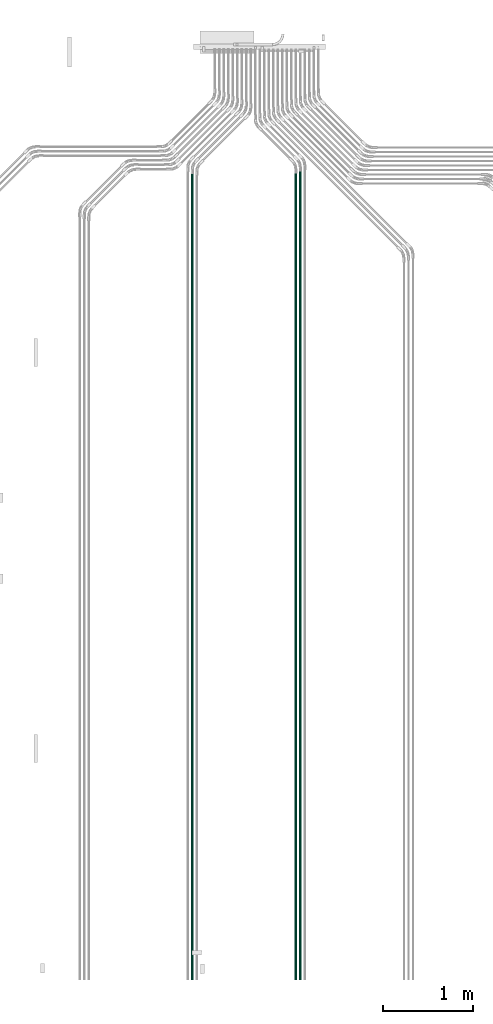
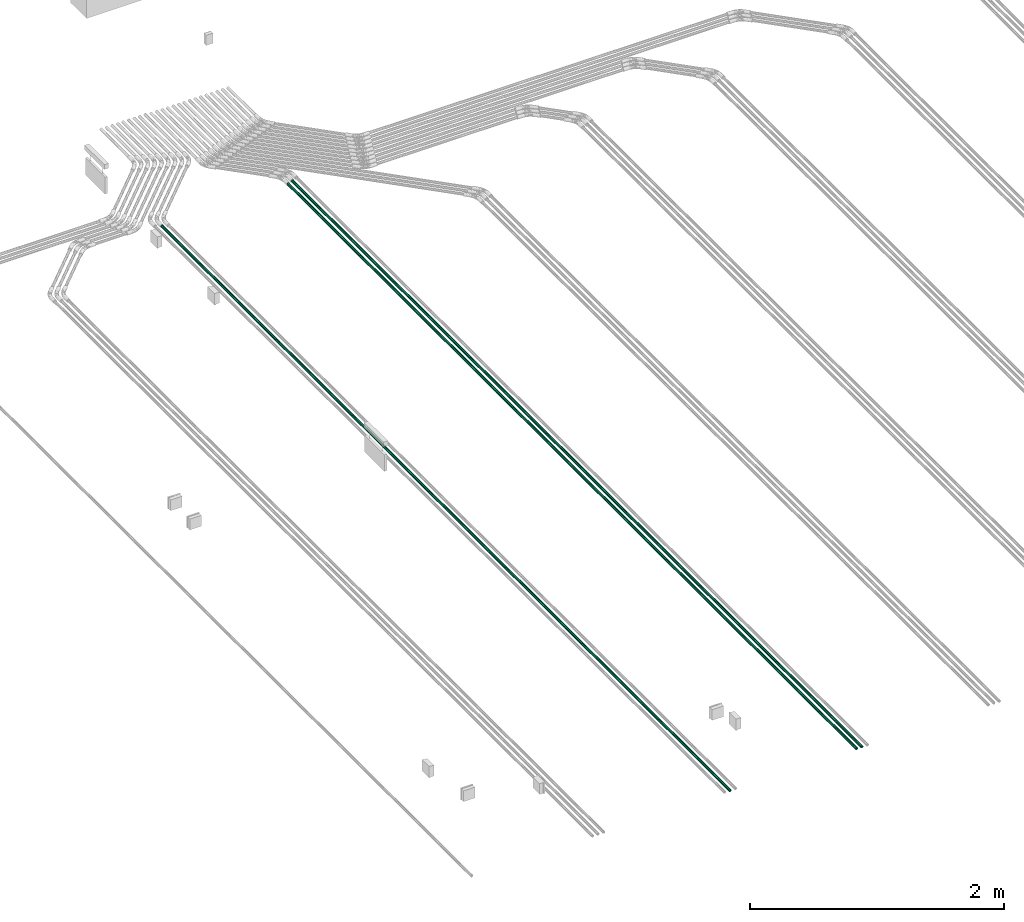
# One storey, part 33 of 51: 3 flow segments.
"""IFC2X3 building model written with IfcOpenShell, lengths in millimetres."""

from ifc_helpers import new_model, entity, si_unit, converted_unit, derived_unit, direction, frame, place, context, subcontext, project, spatial, faceted_brep, type_object, element, save


model = new_model("IFC2X3")

# Units and contexts
model_context = context("Model", 3, precision=0.01, world=frame((0.0, 4.29681676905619e-09, 0.0)), true_north=direction((4.01073788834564e-13, 1.0)))
plan_context = context("Plan", 3, precision=0.01, world=frame((0.0, 4.29681676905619e-09, 0.0)), true_north=direction((4.01073788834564e-13, 1.0)))
body_context = subcontext(model_context, "Body", "Model", "MODEL_VIEW")
ifc_project = project(units=[converted_unit("PLANEANGLEUNIT", "DEGREE", entity("IfcPositiveLengthMeasure", 0.0174532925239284), si_unit("PLANEANGLEUNIT", "RADIAN"), dimensions=[0, 0, 0, 0, 0, 0, 0]), si_unit("AREAUNIT", "SQUARE_METRE"), si_unit("LENGTHUNIT", "METRE", prefix="MILLI"), si_unit("MASSUNIT", "GRAM", prefix="KILO"), si_unit("POWERUNIT", "WATT"), si_unit("PRESSUREUNIT", "PASCAL"), si_unit("FORCEUNIT", "NEWTON", prefix="KILO"), si_unit("ELECTRICVOLTAGEUNIT", "VOLT"), si_unit("ELECTRICCURRENTUNIT", "AMPERE"), si_unit("THERMODYNAMICTEMPERATUREUNIT", "DEGREE_CELSIUS"), si_unit("TIMEUNIT", "SECOND"), si_unit("VOLUMEUNIT", "CUBIC_METRE"), derived_unit("LINEARVELOCITYUNIT", [(si_unit("LENGTHUNIT", "METRE"), 1), (si_unit("TIMEUNIT", "SECOND"), -1)]), derived_unit("VOLUMETRICFLOWRATEUNIT", [(si_unit("VOLUMEUNIT", "CUBIC_METRE"), 1), (si_unit("TIMEUNIT", "SECOND"), -1)]), derived_unit("THERMALTRANSMITTANCEUNIT", [(si_unit("POWERUNIT", "WATT"), 1), (si_unit("THERMODYNAMICTEMPERATUREUNIT", "KELVIN"), -1), (si_unit("AREAUNIT", "SQUARE_METRE"), -1)]), derived_unit("SOUNDPRESSUREUNIT", [(si_unit("PRESSUREUNIT", "PASCAL"), 1)])], contexts=[model_context, plan_context])

# Site, building, storey
site_placement = place(None, frame((0.0, -4.29681676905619e-09, 0.0), z_axis=(0.0, 0.0, 1.0), x_axis=(1.0, 0.0, 0.0)))
site = spatial("IfcSite", under=ifc_project, at=site_placement, Name="ENGM", CompositionType="ELEMENT")
building_placement = place(site_placement, frame((0.0, 4.29681676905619e-09, 0.0), z_axis=(0.0, 0.0, 1.0), x_axis=(1.0, 0.0, 0.0)))
building = spatial("IfcBuilding", under=site, at=building_placement, Name="TI", CompositionType="ELEMENT")
storey_placement = place(building_placement, frame((0.0, 0.0, 210900.0), z_axis=(0.0, 0.0, 1.0), x_axis=(1.0, 0.0, 0.0)))
storey = spatial("IfcBuildingStorey", under=building, at=storey_placement, Name="Nivå F", CompositionType="ELEMENT", Elevation=210900.0)

# Flow segments
cable_carrier_segment_type = type_object("IfcCableCarrierSegmentType", Name="Trekkerør, korrugert", PredefinedType="CONDUITSEGMENT")
flow_segment_1_placement = place(storey_placement, frame((600375.0, 662927.49253, -56.7999999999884), z_axis=(0.0, 0.0, 1.0), x_axis=(0.0, 1.0, 0.0)))
element("IfcFlowSegment", 1, at=flow_segment_1_placement, inside=storey, type_object=cable_carrier_segment_type, Name="Trekkerør, korrugert", context=body_context, shape_type="Brep", body=[
    faceted_brep([(26072.507469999, 10.3404814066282, -1.82330586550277), (26072.507469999, 10.5, 0.0), (35025.4, 10.5, 0.0), (35025.4, 10.3404814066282, -1.82330586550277), (26072.507469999, 9.86677251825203, -3.59121150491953), (35025.4, 9.86677251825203, -3.59121150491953), (26072.507469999, 9.0932667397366, -5.25), (35025.4, 9.0932667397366, -5.25), (26072.507469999, 8.04346665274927, -6.74926990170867), (35025.4, 8.04346665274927, -6.74926990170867), (26072.507469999, 6.74926990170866, -8.04346665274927), (35025.4, 6.74926990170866, -8.04346665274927), (26072.507469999, 5.25, -9.09326673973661), (35025.4, 5.25, -9.09326673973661), (26072.507469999, 3.59121150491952, -9.86677251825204), (35025.4, 3.59121150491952, -9.86677251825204), (26072.507469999, 1.82330586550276, -10.3404814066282), (35025.4, 1.82330586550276, -10.3404814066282), (26072.507469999, -1.92881870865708e-15, -10.5), (35025.4, -1.92881870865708e-15, -10.5), (26072.507469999, -1.82330586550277, -10.3404814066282), (35025.4, -1.82330586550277, -10.3404814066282), (26072.507469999, -3.59121150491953, -9.86677251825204), (35025.4, -3.59121150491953, -9.86677251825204), (26072.507469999, -5.25, -9.0932667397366), (35025.4, -5.25, -9.0932667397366), (26072.507469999, -6.74926990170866, -8.04346665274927), (35025.4, -6.74926990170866, -8.04346665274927), (26072.507469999, -8.04346665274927, -6.74926990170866), (35025.4, -8.04346665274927, -6.74926990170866), (26072.507469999, -9.09326673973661, -5.25), (35025.4, -9.09326673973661, -5.25), (26072.507469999, -9.86677251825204, -3.59121150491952), (35025.4, -9.86677251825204, -3.59121150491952), (26072.507469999, -10.3404814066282, -1.82330586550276), (35025.4, -10.3404814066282, -1.82330586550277), (26072.507469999, -10.5, 1.28587913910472e-15), (35025.4, -10.5, 1.28587913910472e-15), (26072.507469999, -10.3404814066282, 1.82330586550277), (35025.4, -10.3404814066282, 1.82330586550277), (26072.507469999, -9.86677251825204, 3.59121150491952), (35025.4, -9.86677251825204, 3.59121150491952), (26072.507469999, -9.09326673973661, 5.25), (35025.4, -9.09326673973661, 5.25), (26072.507469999, -8.04346665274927, 6.74926990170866), (35025.4, -8.04346665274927, 6.74926990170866), (26072.507469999, -6.74926990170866, 8.04346665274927), (35025.4, -6.74926990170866, 8.04346665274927), (26072.507469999, -5.25, 9.09326673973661), (35025.4, -5.25, 9.09326673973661), (26072.507469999, -3.59121150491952, 9.86677251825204), (35025.4, -3.59121150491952, 9.86677251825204), (26072.507469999, -1.82330586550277, 10.3404814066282), (35025.4, -1.82330586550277, 10.3404814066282), (26072.507469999, 6.4293956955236e-16, 10.5), (35025.4, 6.4293956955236e-16, 10.5), (26072.507469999, 1.82330586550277, 10.3404814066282), (35025.4, 1.82330586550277, 10.3404814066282), (26072.507469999, 3.59121150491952, 9.86677251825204), (35025.4, 3.59121150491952, 9.86677251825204), (26072.507469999, 5.25, 9.09326673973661), (35025.4, 5.25, 9.09326673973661), (26072.507469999, 6.74926990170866, 8.04346665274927), (35025.4, 6.74926990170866, 8.04346665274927), (26072.507469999, 8.04346665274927, 6.74926990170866), (35025.4, 8.04346665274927, 6.74926990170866), (26072.507469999, 9.09326673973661, 5.25), (35025.4, 9.09326673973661, 5.25), (26072.507469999, 9.86677251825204, 3.59121150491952), (35025.4, 9.86677251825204, 3.59121150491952), (26072.507469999, 10.3404814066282, 1.82330586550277), (35025.4, 10.3404814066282, 1.82330586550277), (26072.507469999, 12.5, 0.0), (26072.507469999, 12.3100969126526, -2.17060222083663), (35025.4, 12.3100969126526, -2.17060222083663), (35025.4, 12.5, 0.0), (26072.507469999, 12.3100969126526, 2.17060222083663), (35025.4, 12.3100969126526, 2.17060222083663), (26072.507469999, 11.7461577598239, 4.27525179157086), (35025.4, 11.7461577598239, 4.27525179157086), (26072.507469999, 10.8253175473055, 6.25), (35025.4, 10.8253175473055, 6.25), (26072.507469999, 9.57555553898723, 8.03484512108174), (35025.4, 9.57555553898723, 8.03484512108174), (26072.507469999, 8.03484512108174, 9.57555553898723), (35025.4, 8.03484512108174, 9.57555553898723), (26072.507469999, 6.25, 10.8253175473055), (35025.4, 6.25, 10.8253175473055), (26072.507469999, 4.27525179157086, 11.7461577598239), (35025.4, 4.27525179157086, 11.7461577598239), (26072.507469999, 2.17060222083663, 12.3100969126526), (35025.4, 2.17060222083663, 12.3100969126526), (26072.507469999, 7.65404249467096e-16, 12.5), (35025.4, 7.65404249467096e-16, 12.5), (26072.507469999, -2.17060222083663, 12.3100969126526), (35025.4, -2.17060222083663, 12.3100969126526), (26072.507469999, -4.27525179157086, 11.7461577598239), (35025.4, -4.27525179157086, 11.7461577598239), (26072.507469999, -6.25, 10.8253175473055), (35025.4, -6.25, 10.8253175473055), (26072.507469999, -8.03484512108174, 9.57555553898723), (35025.4, -8.03484512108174, 9.57555553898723), (26072.507469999, -9.57555553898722, 8.03484512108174), (35025.4, -9.57555553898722, 8.03484512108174), (26072.507469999, -10.8253175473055, 6.25), (35025.4, -10.8253175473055, 6.25), (26072.507469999, -11.7461577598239, 4.27525179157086), (35025.4, -11.7461577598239, 4.27525179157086), (26072.507469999, -12.3100969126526, 2.17060222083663), (35025.4, -12.3100969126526, 2.17060222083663), (26072.507469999, -12.5, 1.53080849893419e-15), (35025.4, -12.5, 1.53080849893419e-15), (26072.507469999, -12.3100969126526, -2.17060222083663), (35025.4, -12.3100969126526, -2.17060222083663), (26072.507469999, -11.7461577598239, -4.27525179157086), (35025.4, -11.7461577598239, -4.27525179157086), (26072.507469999, -10.8253175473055, -6.25), (35025.4, -10.8253175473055, -6.25), (26072.507469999, -9.57555553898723, -8.03484512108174), (35025.4, -9.57555553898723, -8.03484512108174), (26072.507469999, -8.03484512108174, -9.57555553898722), (35025.4, -8.03484512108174, -9.57555553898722), (26072.507469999, -6.25, -10.8253175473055), (35025.4, -6.25000000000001, -10.8253175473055), (26072.507469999, -4.27525179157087, -11.7461577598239), (35025.4, -4.27525179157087, -11.7461577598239), (26072.507469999, -2.17060222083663, -12.3100969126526), (35025.4, -2.17060222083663, -12.3100969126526), (26072.507469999, -2.29621274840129e-15, -12.5), (35025.4, -2.29621274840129e-15, -12.5), (26072.507469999, 2.17060222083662, -12.3100969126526), (35025.4, 2.17060222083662, -12.3100969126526), (26072.507469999, 4.27525179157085, -11.7461577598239), (35025.4, 4.27525179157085, -11.7461577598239), (26072.507469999, 6.25, -10.8253175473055), (35025.4, 6.25, -10.8253175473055), (26072.507469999, 8.03484512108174, -9.57555553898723), (35025.4, 8.03484512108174, -9.57555553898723), (26072.507469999, 9.57555553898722, -8.03484512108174), (35025.4, 9.57555553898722, -8.03484512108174), (26072.507469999, 10.8253175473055, -6.25), (35025.4, 10.8253175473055, -6.25000000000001), (26072.507469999, 11.7461577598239, -4.27525179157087), (35025.4, 11.7461577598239, -4.27525179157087)], [[[0, 1, 2, 3]], [[4, 0, 3, 5]], [[6, 4, 5, 7]], [[8, 6, 7, 9]], [[10, 8, 9, 11]], [[12, 10, 11, 13]], [[14, 12, 13, 15]], [[16, 14, 15, 17]], [[18, 16, 17, 19]], [[20, 18, 19, 21]], [[22, 20, 21, 23]], [[24, 22, 23, 25]], [[26, 24, 25, 27]], [[28, 26, 27, 29]], [[30, 28, 29, 31]], [[32, 30, 31, 33]], [[34, 32, 33, 35]], [[36, 34, 35, 37]], [[38, 36, 37, 39]], [[40, 38, 39, 41]], [[42, 40, 41, 43]], [[44, 42, 43, 45]], [[46, 44, 45, 47]], [[48, 46, 47, 49]], [[50, 48, 49, 51]], [[52, 50, 51, 53]], [[54, 52, 53, 55]], [[56, 54, 55, 57]], [[58, 56, 57, 59]], [[60, 58, 59, 61]], [[62, 60, 61, 63]], [[64, 62, 63, 65]], [[66, 64, 65, 67]], [[68, 66, 67, 69]], [[70, 68, 69, 71]], [[1, 70, 71, 2]], [[72, 73, 74, 75]], [[76, 72, 75, 77]], [[78, 76, 77, 79]], [[80, 78, 79, 81]], [[82, 80, 81, 83]], [[84, 82, 83, 85]], [[86, 84, 85, 87]], [[88, 86, 87, 89]], [[90, 88, 89, 91]], [[92, 90, 91, 93]], [[94, 92, 93, 95]], [[96, 94, 95, 97]], [[98, 96, 97, 99]], [[100, 98, 99, 101]], [[102, 100, 101, 103]], [[104, 102, 103, 105]], [[106, 104, 105, 107]], [[108, 106, 107, 109]], [[110, 108, 109, 111]], [[112, 110, 111, 113]], [[114, 112, 113, 115]], [[116, 114, 115, 117]], [[118, 116, 117, 119]], [[120, 118, 119, 121]], [[122, 120, 121, 123]], [[124, 122, 123, 125]], [[126, 124, 125, 127]], [[128, 126, 127, 129]], [[130, 128, 129, 131]], [[132, 130, 131, 133]], [[134, 132, 133, 135]], [[136, 134, 135, 137]], [[138, 136, 137, 139]], [[140, 138, 139, 141]], [[142, 140, 141, 143]], [[73, 142, 143, 74]], [[75, 74, 143, 141, 139, 137, 135, 133, 131, 129, 127, 125, 123, 121, 119, 117, 115, 113, 111, 109, 107, 105, 103, 101, 99, 97, 95, 93, 91, 89, 87, 85, 83, 81, 79, 77], [2, 71, 69, 67, 65, 63, 61, 59, 57, 55, 53, 51, 49, 47, 45, 43, 41, 39, 37, 35, 33, 31, 29, 27, 25, 23, 21, 19, 17, 15, 13, 11, 9, 7, 5, 3]], [[76, 78, 80, 82, 84, 86, 88, 90, 92, 94, 96, 98, 100, 102, 104, 106, 108, 110, 112, 114, 116, 118, 120, 122, 124, 126, 128, 130, 132, 134, 136, 138, 140, 142, 73, 72], [4, 6, 8, 10, 12, 14, 16, 18, 20, 22, 24, 26, 28, 30, 32, 34, 36, 38, 40, 42, 44, 46, 48, 50, 52, 54, 56, 58, 60, 62, 64, 66, 68, 70, 1, 0]]], orient=[[False], [False], [False], [False], [False], [False], [False], [False], [False], [False], [False], [False], [False], [False], [False], [False], [False], [False], [False], [False], [False], [False], [False], [False], [False], [False], [False], [False], [False], [False], [False], [False], [False], [False], [False], [False], [False], [False], [False], [False], [False], [False], [False], [False], [False], [False], [False], [False], [False], [False], [False], [False], [False], [False], [False], [False], [False], [False], [False], [False], [False], [False], [False], [False], [False], [False], [False], [False], [False], [False], [False], [False], [False, False], [False, False]]),
])
flow_segment_2_placement = place(storey_placement, frame((601525.0, 697956.35686, -56.7999999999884), z_axis=(0.0, 0.0, 1.0), x_axis=(0.0, -1.0, 0.0)))
element("IfcFlowSegment", 2, at=flow_segment_2_placement, inside=storey, type_object=cable_carrier_segment_type, Name="Trekkerør, korrugert", context=body_context, shape_type="Brep", body=[
    faceted_brep([(8956.35686000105, 10.5, 0.0), (8956.35686000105, 10.3404814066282, -1.82330586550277), (0.0, 10.3404814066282, -1.82330586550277), (0.0, 10.5, 0.0), (8956.35686000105, 9.86677251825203, -3.59121150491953), (0.0, 9.86677251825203, -3.59121150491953), (8956.35686000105, 9.0932667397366, -5.25), (0.0, 9.0932667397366, -5.25), (8956.35686000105, 8.04346665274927, -6.74926990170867), (0.0, 8.04346665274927, -6.74926990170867), (8956.35686000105, 6.74926990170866, -8.04346665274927), (0.0, 6.74926990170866, -8.04346665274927), (8956.35686000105, 5.25, -9.09326673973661), (0.0, 5.25, -9.09326673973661), (8956.35686000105, 3.59121150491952, -9.86677251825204), (0.0, 3.59121150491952, -9.86677251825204), (8956.35686000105, 1.82330586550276, -10.3404814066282), (0.0, 1.82330586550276, -10.3404814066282), (8956.35686000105, -1.92881870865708e-15, -10.5), (0.0, -1.92881870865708e-15, -10.5), (8956.35686000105, -1.82330586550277, -10.3404814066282), (0.0, -1.82330586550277, -10.3404814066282), (8956.35686000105, -3.59121150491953, -9.86677251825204), (0.0, -3.59121150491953, -9.86677251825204), (8956.35686000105, -5.25, -9.0932667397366), (0.0, -5.25, -9.0932667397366), (8956.35686000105, -6.74926990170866, -8.04346665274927), (0.0, -6.74926990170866, -8.04346665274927), (8956.35686000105, -8.04346665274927, -6.74926990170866), (0.0, -8.04346665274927, -6.74926990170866), (8956.35686000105, -9.09326673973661, -5.25), (0.0, -9.09326673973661, -5.25), (8956.35686000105, -9.86677251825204, -3.59121150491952), (0.0, -9.86677251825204, -3.59121150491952), (8956.35686000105, -10.3404814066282, -1.82330586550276), (0.0, -10.3404814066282, -1.82330586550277), (8956.35686000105, -10.5, 1.28587913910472e-15), (0.0, -10.5, 1.28587913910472e-15), (8956.35686000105, -10.3404814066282, 1.82330586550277), (0.0, -10.3404814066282, 1.82330586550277), (8956.35686000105, -9.86677251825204, 3.59121150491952), (0.0, -9.86677251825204, 3.59121150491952), (8956.35686000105, -9.09326673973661, 5.25), (0.0, -9.09326673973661, 5.25), (8956.35686000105, -8.04346665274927, 6.74926990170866), (0.0, -8.04346665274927, 6.74926990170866), (8956.35686000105, -6.74926990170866, 8.04346665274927), (0.0, -6.74926990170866, 8.04346665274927), (8956.35686000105, -5.25, 9.09326673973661), (0.0, -5.25, 9.09326673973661), (8956.35686000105, -3.59121150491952, 9.86677251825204), (0.0, -3.59121150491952, 9.86677251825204), (8956.35686000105, -1.82330586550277, 10.3404814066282), (0.0, -1.82330586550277, 10.3404814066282), (8956.35686000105, 6.4293956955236e-16, 10.5), (0.0, 6.4293956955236e-16, 10.5), (8956.35686000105, 1.82330586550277, 10.3404814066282), (0.0, 1.82330586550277, 10.3404814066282), (8956.35686000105, 3.59121150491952, 9.86677251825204), (0.0, 3.59121150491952, 9.86677251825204), (8956.35686000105, 5.25, 9.09326673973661), (0.0, 5.25, 9.09326673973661), (8956.35686000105, 6.74926990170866, 8.04346665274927), (0.0, 6.74926990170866, 8.04346665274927), (8956.35686000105, 8.04346665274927, 6.74926990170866), (0.0, 8.04346665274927, 6.74926990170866), (8956.35686000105, 9.09326673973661, 5.25), (0.0, 9.09326673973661, 5.25), (8956.35686000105, 9.86677251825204, 3.59121150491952), (0.0, 9.86677251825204, 3.59121150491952), (8956.35686000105, 10.3404814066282, 1.82330586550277), (0.0, 10.3404814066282, 1.82330586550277), (8956.35686000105, 12.3100969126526, -2.17060222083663), (8956.35686000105, 12.5, 0.0), (0.0, 12.5, 0.0), (0.0, 12.3100969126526, -2.17060222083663), (8956.35686000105, 12.3100969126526, 2.17060222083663), (0.0, 12.3100969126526, 2.17060222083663), (8956.35686000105, 11.7461577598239, 4.27525179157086), (0.0, 11.7461577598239, 4.27525179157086), (8956.35686000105, 10.8253175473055, 6.25), (0.0, 10.8253175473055, 6.25), (8956.35686000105, 9.57555553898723, 8.03484512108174), (0.0, 9.57555553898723, 8.03484512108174), (8956.35686000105, 8.03484512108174, 9.57555553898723), (0.0, 8.03484512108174, 9.57555553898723), (8956.35686000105, 6.25, 10.8253175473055), (0.0, 6.25, 10.8253175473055), (8956.35686000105, 4.27525179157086, 11.7461577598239), (0.0, 4.27525179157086, 11.7461577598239), (8956.35686000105, 2.17060222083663, 12.3100969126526), (0.0, 2.17060222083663, 12.3100969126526), (8956.35686000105, 7.65404249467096e-16, 12.5), (0.0, 7.65404249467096e-16, 12.5), (8956.35686000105, -2.17060222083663, 12.3100969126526), (0.0, -2.17060222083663, 12.3100969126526), (8956.35686000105, -4.27525179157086, 11.7461577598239), (0.0, -4.27525179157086, 11.7461577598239), (8956.35686000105, -6.25, 10.8253175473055), (0.0, -6.25, 10.8253175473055), (8956.35686000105, -8.03484512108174, 9.57555553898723), (0.0, -8.03484512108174, 9.57555553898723), (8956.35686000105, -9.57555553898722, 8.03484512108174), (0.0, -9.57555553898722, 8.03484512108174), (8956.35686000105, -10.8253175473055, 6.25), (0.0, -10.8253175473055, 6.25), (8956.35686000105, -11.7461577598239, 4.27525179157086), (0.0, -11.7461577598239, 4.27525179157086), (8956.35686000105, -12.3100969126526, 2.17060222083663), (0.0, -12.3100969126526, 2.17060222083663), (8956.35686000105, -12.5, 1.53080849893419e-15), (0.0, -12.5, 1.53080849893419e-15), (8956.35686000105, -12.3100969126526, -2.17060222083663), (0.0, -12.3100969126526, -2.17060222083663), (8956.35686000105, -11.7461577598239, -4.27525179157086), (0.0, -11.7461577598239, -4.27525179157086), (8956.35686000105, -10.8253175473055, -6.25), (0.0, -10.8253175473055, -6.25), (8956.35686000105, -9.57555553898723, -8.03484512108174), (0.0, -9.57555553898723, -8.03484512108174), (8956.35686000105, -8.03484512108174, -9.57555553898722), (0.0, -8.03484512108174, -9.57555553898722), (8956.35686000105, -6.25000000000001, -10.8253175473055), (0.0, -6.25000000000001, -10.8253175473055), (8956.35686000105, -4.27525179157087, -11.7461577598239), (0.0, -4.27525179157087, -11.7461577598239), (8956.35686000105, -2.17060222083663, -12.3100969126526), (0.0, -2.17060222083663, -12.3100969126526), (8956.35686000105, -2.29621274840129e-15, -12.5), (0.0, -2.29621274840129e-15, -12.5), (8956.35686000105, 2.17060222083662, -12.3100969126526), (0.0, 2.17060222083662, -12.3100969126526), (8956.35686000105, 4.27525179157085, -11.7461577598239), (0.0, 4.27525179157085, -11.7461577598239), (8956.35686000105, 6.25, -10.8253175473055), (0.0, 6.25, -10.8253175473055), (8956.35686000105, 8.03484512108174, -9.57555553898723), (0.0, 8.03484512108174, -9.57555553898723), (8956.35686000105, 9.57555553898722, -8.03484512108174), (0.0, 9.57555553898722, -8.03484512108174), (8956.35686000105, 10.8253175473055, -6.25000000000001), (0.0, 10.8253175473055, -6.25000000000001), (8956.35686000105, 11.7461577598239, -4.27525179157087), (0.0, 11.7461577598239, -4.27525179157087)], [[[0, 1, 2, 3]], [[1, 4, 5, 2]], [[4, 6, 7, 5]], [[6, 8, 9, 7]], [[8, 10, 11, 9]], [[10, 12, 13, 11]], [[12, 14, 15, 13]], [[14, 16, 17, 15]], [[16, 18, 19, 17]], [[18, 20, 21, 19]], [[20, 22, 23, 21]], [[22, 24, 25, 23]], [[24, 26, 27, 25]], [[26, 28, 29, 27]], [[28, 30, 31, 29]], [[30, 32, 33, 31]], [[32, 34, 35, 33]], [[34, 36, 37, 35]], [[36, 38, 39, 37]], [[38, 40, 41, 39]], [[40, 42, 43, 41]], [[42, 44, 45, 43]], [[44, 46, 47, 45]], [[46, 48, 49, 47]], [[48, 50, 51, 49]], [[50, 52, 53, 51]], [[52, 54, 55, 53]], [[54, 56, 57, 55]], [[56, 58, 59, 57]], [[58, 60, 61, 59]], [[60, 62, 63, 61]], [[62, 64, 65, 63]], [[64, 66, 67, 65]], [[66, 68, 69, 67]], [[68, 70, 71, 69]], [[70, 0, 3, 71]], [[72, 73, 74, 75]], [[73, 76, 77, 74]], [[76, 78, 79, 77]], [[78, 80, 81, 79]], [[80, 82, 83, 81]], [[82, 84, 85, 83]], [[84, 86, 87, 85]], [[86, 88, 89, 87]], [[88, 90, 91, 89]], [[90, 92, 93, 91]], [[92, 94, 95, 93]], [[94, 96, 97, 95]], [[96, 98, 99, 97]], [[98, 100, 101, 99]], [[100, 102, 103, 101]], [[102, 104, 105, 103]], [[104, 106, 107, 105]], [[106, 108, 109, 107]], [[108, 110, 111, 109]], [[110, 112, 113, 111]], [[112, 114, 115, 113]], [[114, 116, 117, 115]], [[116, 118, 119, 117]], [[118, 120, 121, 119]], [[120, 122, 123, 121]], [[122, 124, 125, 123]], [[124, 126, 127, 125]], [[126, 128, 129, 127]], [[128, 130, 131, 129]], [[130, 132, 133, 131]], [[132, 134, 135, 133]], [[134, 136, 137, 135]], [[136, 138, 139, 137]], [[138, 140, 141, 139]], [[140, 142, 143, 141]], [[142, 72, 75, 143]], [[75, 74, 77, 79, 81, 83, 85, 87, 89, 91, 93, 95, 97, 99, 101, 103, 105, 107, 109, 111, 113, 115, 117, 119, 121, 123, 125, 127, 129, 131, 133, 135, 137, 139, 141, 143], [3, 2, 5, 7, 9, 11, 13, 15, 17, 19, 21, 23, 25, 27, 29, 31, 33, 35, 37, 39, 41, 43, 45, 47, 49, 51, 53, 55, 57, 59, 61, 63, 65, 67, 69, 71]], [[142, 140, 138, 136, 134, 132, 130, 128, 126, 124, 122, 120, 118, 116, 114, 112, 110, 108, 106, 104, 102, 100, 98, 96, 94, 92, 90, 88, 86, 84, 82, 80, 78, 76, 73, 72], [70, 68, 66, 64, 62, 60, 58, 56, 54, 52, 50, 48, 46, 44, 42, 40, 38, 36, 34, 32, 30, 28, 26, 24, 22, 20, 18, 16, 14, 12, 10, 8, 6, 4, 1, 0]]], orient=[[False], [False], [False], [False], [False], [False], [False], [False], [False], [False], [False], [False], [False], [False], [False], [False], [False], [False], [False], [False], [False], [False], [False], [False], [False], [False], [False], [False], [False], [False], [False], [False], [False], [False], [False], [False], [False], [False], [False], [False], [False], [False], [False], [False], [False], [False], [False], [False], [False], [False], [False], [False], [False], [False], [False], [False], [False], [False], [False], [False], [False], [False], [False], [False], [False], [False], [False], [False], [False], [False], [False], [False], [False, False], [False, False]]),
])
flow_segment_3_placement = place(storey_placement, frame((601575.0, 697977.06754, -56.7999999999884), z_axis=(0.0, 0.0, 1.0), x_axis=(0.0, -1.0, 0.0)))
element("IfcFlowSegment", 3, at=flow_segment_3_placement, inside=storey, type_object=cable_carrier_segment_type, Name="Trekkerør, korrugert", context=body_context, shape_type="Brep", body=[
    faceted_brep([(8977.06754000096, 10.5, 0.0), (8977.06754000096, 10.3404814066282, -1.82330586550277), (0.0, 10.3404814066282, -1.82330586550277), (0.0, 10.5, 0.0), (8977.06754000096, 9.86677251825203, -3.59121150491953), (0.0, 9.86677251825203, -3.59121150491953), (8977.06754000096, 9.0932667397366, -5.25), (0.0, 9.0932667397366, -5.25), (8977.06754000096, 8.04346665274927, -6.74926990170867), (0.0, 8.04346665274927, -6.74926990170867), (8977.06754000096, 6.74926990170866, -8.04346665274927), (0.0, 6.74926990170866, -8.04346665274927), (8977.06754000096, 5.25, -9.09326673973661), (0.0, 5.25, -9.09326673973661), (8977.06754000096, 3.59121150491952, -9.86677251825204), (0.0, 3.59121150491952, -9.86677251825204), (8977.06754000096, 1.82330586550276, -10.3404814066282), (0.0, 1.82330586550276, -10.3404814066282), (8977.06754000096, -1.92881870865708e-15, -10.5), (0.0, -1.92881870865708e-15, -10.5), (8977.06754000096, -1.82330586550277, -10.3404814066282), (0.0, -1.82330586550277, -10.3404814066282), (8977.06754000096, -3.59121150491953, -9.86677251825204), (0.0, -3.59121150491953, -9.86677251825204), (8977.06754000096, -5.25, -9.0932667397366), (0.0, -5.25, -9.0932667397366), (8977.06754000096, -6.74926990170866, -8.04346665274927), (0.0, -6.74926990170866, -8.04346665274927), (8977.06754000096, -8.04346665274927, -6.74926990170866), (0.0, -8.04346665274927, -6.74926990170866), (8977.06754000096, -9.09326673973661, -5.25), (0.0, -9.09326673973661, -5.25), (8977.06754000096, -9.86677251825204, -3.59121150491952), (0.0, -9.86677251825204, -3.59121150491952), (8977.06754000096, -10.3404814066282, -1.82330586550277), (0.0, -10.3404814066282, -1.82330586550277), (8977.06754000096, -10.5, 1.28587913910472e-15), (0.0, -10.5, 1.28587913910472e-15), (8977.06754000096, -10.3404814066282, 1.82330586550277), (0.0, -10.3404814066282, 1.82330586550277), (8977.06754000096, -9.86677251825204, 3.59121150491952), (0.0, -9.86677251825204, 3.59121150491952), (8977.06754000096, -9.09326673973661, 5.25), (0.0, -9.09326673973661, 5.25), (8977.06754000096, -8.04346665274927, 6.74926990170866), (0.0, -8.04346665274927, 6.74926990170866), (8977.06754000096, -6.74926990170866, 8.04346665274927), (0.0, -6.74926990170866, 8.04346665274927), (8977.06754000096, -5.25, 9.09326673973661), (0.0, -5.25, 9.09326673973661), (8977.06754000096, -3.59121150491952, 9.86677251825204), (0.0, -3.59121150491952, 9.86677251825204), (8977.06754000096, -1.82330586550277, 10.3404814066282), (0.0, -1.82330586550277, 10.3404814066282), (8977.06754000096, 6.4293956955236e-16, 10.5), (0.0, 6.4293956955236e-16, 10.5), (8977.06754000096, 1.82330586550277, 10.3404814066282), (0.0, 1.82330586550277, 10.3404814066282), (8977.06754000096, 3.59121150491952, 9.86677251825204), (0.0, 3.59121150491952, 9.86677251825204), (8977.06754000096, 5.25, 9.09326673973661), (0.0, 5.25, 9.09326673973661), (8977.06754000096, 6.74926990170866, 8.04346665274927), (0.0, 6.74926990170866, 8.04346665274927), (8977.06754000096, 8.04346665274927, 6.74926990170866), (0.0, 8.04346665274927, 6.74926990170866), (8977.06754000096, 9.09326673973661, 5.25), (0.0, 9.09326673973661, 5.25), (8977.06754000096, 9.86677251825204, 3.59121150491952), (0.0, 9.86677251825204, 3.59121150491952), (8977.06754000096, 10.3404814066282, 1.82330586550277), (0.0, 10.3404814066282, 1.82330586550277), (8977.06754000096, 12.3100969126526, -2.17060222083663), (8977.06754000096, 12.5, 0.0), (0.0, 12.5, 0.0), (0.0, 12.3100969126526, -2.17060222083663), (8977.06754000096, 12.3100969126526, 2.17060222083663), (0.0, 12.3100969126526, 2.17060222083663), (8977.06754000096, 11.7461577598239, 4.27525179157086), (0.0, 11.7461577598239, 4.27525179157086), (8977.06754000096, 10.8253175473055, 6.25), (0.0, 10.8253175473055, 6.25), (8977.06754000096, 9.57555553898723, 8.03484512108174), (0.0, 9.57555553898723, 8.03484512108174), (8977.06754000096, 8.03484512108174, 9.57555553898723), (0.0, 8.03484512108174, 9.57555553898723), (8977.06754000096, 6.25, 10.8253175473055), (0.0, 6.25, 10.8253175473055), (8977.06754000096, 4.27525179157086, 11.7461577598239), (0.0, 4.27525179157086, 11.7461577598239), (8977.06754000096, 2.17060222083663, 12.3100969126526), (0.0, 2.17060222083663, 12.3100969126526), (8977.06754000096, 7.65404249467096e-16, 12.5), (0.0, 7.65404249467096e-16, 12.5), (8977.06754000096, -2.17060222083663, 12.3100969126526), (0.0, -2.17060222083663, 12.3100969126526), (8977.06754000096, -4.27525179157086, 11.7461577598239), (0.0, -4.27525179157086, 11.7461577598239), (8977.06754000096, -6.25, 10.8253175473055), (0.0, -6.25, 10.8253175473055), (8977.06754000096, -8.03484512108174, 9.57555553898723), (0.0, -8.03484512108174, 9.57555553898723), (8977.06754000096, -9.57555553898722, 8.03484512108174), (0.0, -9.57555553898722, 8.03484512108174), (8977.06754000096, -10.8253175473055, 6.25), (0.0, -10.8253175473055, 6.25), (8977.06754000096, -11.7461577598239, 4.27525179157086), (0.0, -11.7461577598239, 4.27525179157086), (8977.06754000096, -12.3100969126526, 2.17060222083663), (0.0, -12.3100969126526, 2.17060222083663), (8977.06754000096, -12.5, 1.53080849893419e-15), (0.0, -12.5, 1.53080849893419e-15), (8977.06754000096, -12.3100969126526, -2.17060222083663), (0.0, -12.3100969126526, -2.17060222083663), (8977.06754000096, -11.7461577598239, -4.27525179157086), (0.0, -11.7461577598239, -4.27525179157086), (8977.06754000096, -10.8253175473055, -6.25), (0.0, -10.8253175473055, -6.25), (8977.06754000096, -9.57555553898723, -8.03484512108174), (0.0, -9.57555553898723, -8.03484512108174), (8977.06754000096, -8.03484512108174, -9.57555553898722), (0.0, -8.03484512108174, -9.57555553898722), (8977.06754000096, -6.25000000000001, -10.8253175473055), (0.0, -6.25000000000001, -10.8253175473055), (8977.06754000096, -4.27525179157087, -11.7461577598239), (0.0, -4.27525179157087, -11.7461577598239), (8977.06754000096, -2.17060222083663, -12.3100969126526), (0.0, -2.17060222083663, -12.3100969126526), (8977.06754000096, -2.29621274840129e-15, -12.5), (0.0, -2.29621274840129e-15, -12.5), (8977.06754000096, 2.17060222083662, -12.3100969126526), (0.0, 2.17060222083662, -12.3100969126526), (8977.06754000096, 4.27525179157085, -11.7461577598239), (0.0, 4.27525179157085, -11.7461577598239), (8977.06754000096, 6.25, -10.8253175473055), (0.0, 6.25, -10.8253175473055), (8977.06754000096, 8.03484512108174, -9.57555553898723), (0.0, 8.03484512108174, -9.57555553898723), (8977.06754000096, 9.57555553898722, -8.03484512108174), (0.0, 9.57555553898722, -8.03484512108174), (8977.06754000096, 10.8253175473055, -6.25000000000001), (0.0, 10.8253175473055, -6.25000000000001), (8977.06754000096, 11.7461577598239, -4.27525179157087), (0.0, 11.7461577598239, -4.27525179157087)], [[[0, 1, 2, 3]], [[1, 4, 5, 2]], [[4, 6, 7, 5]], [[6, 8, 9, 7]], [[8, 10, 11, 9]], [[10, 12, 13, 11]], [[12, 14, 15, 13]], [[14, 16, 17, 15]], [[16, 18, 19, 17]], [[18, 20, 21, 19]], [[20, 22, 23, 21]], [[22, 24, 25, 23]], [[24, 26, 27, 25]], [[26, 28, 29, 27]], [[28, 30, 31, 29]], [[30, 32, 33, 31]], [[32, 34, 35, 33]], [[34, 36, 37, 35]], [[36, 38, 39, 37]], [[38, 40, 41, 39]], [[40, 42, 43, 41]], [[42, 44, 45, 43]], [[44, 46, 47, 45]], [[46, 48, 49, 47]], [[48, 50, 51, 49]], [[50, 52, 53, 51]], [[52, 54, 55, 53]], [[54, 56, 57, 55]], [[56, 58, 59, 57]], [[58, 60, 61, 59]], [[60, 62, 63, 61]], [[62, 64, 65, 63]], [[64, 66, 67, 65]], [[66, 68, 69, 67]], [[68, 70, 71, 69]], [[70, 0, 3, 71]], [[72, 73, 74, 75]], [[73, 76, 77, 74]], [[76, 78, 79, 77]], [[78, 80, 81, 79]], [[80, 82, 83, 81]], [[82, 84, 85, 83]], [[84, 86, 87, 85]], [[86, 88, 89, 87]], [[88, 90, 91, 89]], [[90, 92, 93, 91]], [[92, 94, 95, 93]], [[94, 96, 97, 95]], [[96, 98, 99, 97]], [[98, 100, 101, 99]], [[100, 102, 103, 101]], [[102, 104, 105, 103]], [[104, 106, 107, 105]], [[106, 108, 109, 107]], [[108, 110, 111, 109]], [[110, 112, 113, 111]], [[112, 114, 115, 113]], [[114, 116, 117, 115]], [[116, 118, 119, 117]], [[118, 120, 121, 119]], [[120, 122, 123, 121]], [[122, 124, 125, 123]], [[124, 126, 127, 125]], [[126, 128, 129, 127]], [[128, 130, 131, 129]], [[130, 132, 133, 131]], [[132, 134, 135, 133]], [[134, 136, 137, 135]], [[136, 138, 139, 137]], [[138, 140, 141, 139]], [[140, 142, 143, 141]], [[142, 72, 75, 143]], [[75, 74, 77, 79, 81, 83, 85, 87, 89, 91, 93, 95, 97, 99, 101, 103, 105, 107, 109, 111, 113, 115, 117, 119, 121, 123, 125, 127, 129, 131, 133, 135, 137, 139, 141, 143], [3, 2, 5, 7, 9, 11, 13, 15, 17, 19, 21, 23, 25, 27, 29, 31, 33, 35, 37, 39, 41, 43, 45, 47, 49, 51, 53, 55, 57, 59, 61, 63, 65, 67, 69, 71]], [[142, 140, 138, 136, 134, 132, 130, 128, 126, 124, 122, 120, 118, 116, 114, 112, 110, 108, 106, 104, 102, 100, 98, 96, 94, 92, 90, 88, 86, 84, 82, 80, 78, 76, 73, 72], [70, 68, 66, 64, 62, 60, 58, 56, 54, 52, 50, 48, 46, 44, 42, 40, 38, 36, 34, 32, 30, 28, 26, 24, 22, 20, 18, 16, 14, 12, 10, 8, 6, 4, 1, 0]]], orient=[[False], [False], [False], [False], [False], [False], [False], [False], [False], [False], [False], [False], [False], [False], [False], [False], [False], [False], [False], [False], [False], [False], [False], [False], [False], [False], [False], [False], [False], [False], [False], [False], [False], [False], [False], [False], [False], [False], [False], [False], [False], [False], [False], [False], [False], [False], [False], [False], [False], [False], [False], [False], [False], [False], [False], [False], [False], [False], [False], [False], [False], [False], [False], [False], [False], [False], [False], [False], [False], [False], [False], [False], [False, False], [False, False]]),
])

save(model, "model.ifc")
